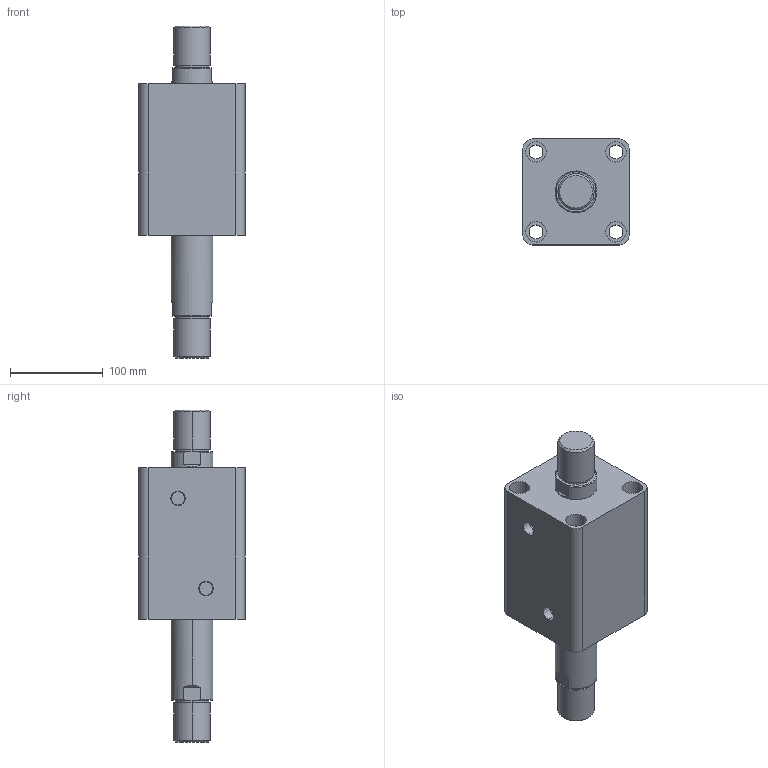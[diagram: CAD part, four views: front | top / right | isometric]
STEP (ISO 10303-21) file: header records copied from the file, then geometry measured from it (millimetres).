
FILE_DESCRIPTION (( 'STEP AP203' ), '1' );
FILE_NAME ('HTB-SW80-70W.STEP', '2019-10-07T10:25:30', ( '微软用户' ), ( '微软中国' ), 'SwSTEP 2.0', 'SolidWorks 2012', '' );
FILE_SCHEMA (( 'CONFIG_CONTROL_DESIGN' ));
Length unit declared in the file: millimetre
Products named in the file (3): HTB-SW80-70W; HTB-SW80-70W活塞杆; HTB-SW80-70掛极
Assembly tree (2 placements, depth 2):
  HTB-SW80-70W
    HTB-SW80-70掛极
    HTB-SW80-70W活塞杆
Bounding box: 114 x 114 x 357 mm (x, y, z)
Volume: 1989908.1 mm3; surface area: 230668.8 mm2
Topology: 2 solids, 2 shells, 108 faces, 240 edges, 156 vertices
Faces by surface type: cylinder 52, plane 36, torus 12, cone 8
Entity records: 3449 total; most frequent: CARTESIAN_POINT 629, DIRECTION 586, ORIENTED_EDGE 480, AXIS2_PLACEMENT_3D 249, EDGE_CURVE 240, VERTEX_POINT 156, EDGE_LOOP 138, CIRCLE 136
